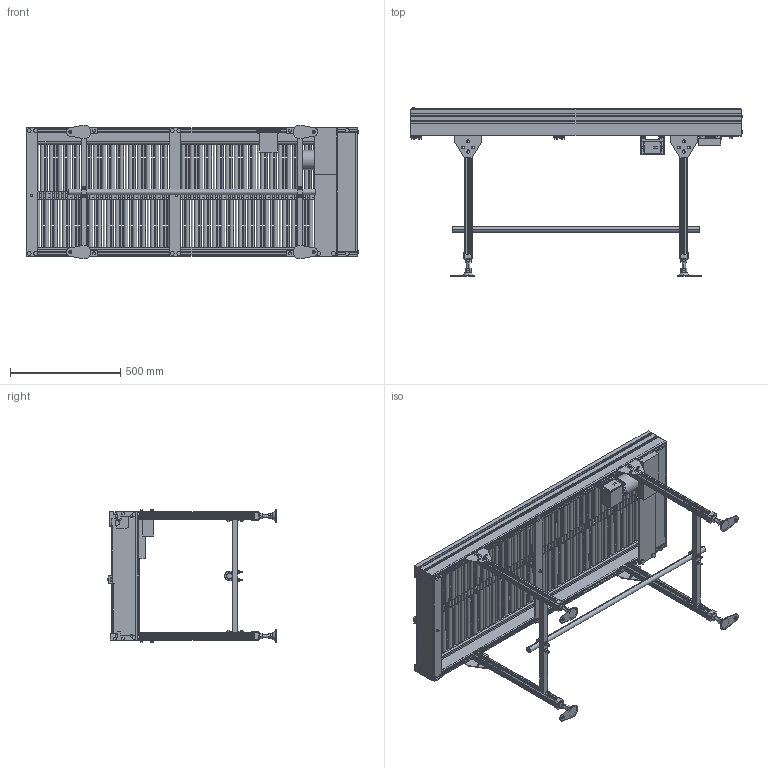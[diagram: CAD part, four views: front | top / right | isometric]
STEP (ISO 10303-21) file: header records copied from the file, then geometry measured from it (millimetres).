
FILE_DESCRIPTION( (''), '2;1');
FILE_NAME ('GM18-CR-303-300-150-K-180.stp','2025-02-17T14:10:48',(''),(''),'spGate 20.6.2 (****-****-****-****)','','');
FILE_SCHEMA (('AUTOMOTIVE_DESIGN'));
Length unit declared in the file: millimetre
Products named in the file (38): NewModel; GM18-CR-303-300-150-K-180; TEMP_X_T-prt0; TEMP_X_T-prt1; TEMP_X_T-prt2; TEMP_X_T-prt3; TEMP_X_T-prt4; TEMP_X_T-prt5; TEMP_X_T-prt6; TEMP_X_T-prt7; TEMP_X_T-prt8; TEMP_X_T-prt9; TEMP_X_T-prt10; TEMP_X_T-prt11; TEMP_X_T-prt12; TEMP_X_T-prt13; TEMP_X_T-prt14; TEMP_X_T-prt15; TEMP_X_T-prt16; TEMP_X_T-prt17; TEMP_X_T-prt18; TEMP_X_T-prt19; TEMP_X_T-prt20; TEMP_X_T-prt21; TEMP_X_T-prt22; TEMP_X_T-prt23; TEMP_X_T-prt24; TEMP_X_T-prt25; TEMP_X_T-prt26; TEMP_X_T-prt27; TEMP_X_T-prt28; TEMP_X_T-prt29; TEMP_X_T-prt30; TEMP_X_T-prt31; TEMP_X_T-prt32; TEMP_X_T-prt33; TEMP_X_T-prt34; TEMP_X_T-prt35
Assembly tree (37 placements, depth 3):
  NewModel
    GM18-CR-303-300-150-K-180
      TEMP_X_T-prt0
      TEMP_X_T-prt1
      TEMP_X_T-prt2
      TEMP_X_T-prt3
      TEMP_X_T-prt4
      TEMP_X_T-prt5
      TEMP_X_T-prt6
      TEMP_X_T-prt7
      TEMP_X_T-prt8
      TEMP_X_T-prt9
      TEMP_X_T-prt10
      TEMP_X_T-prt11
      TEMP_X_T-prt12
      TEMP_X_T-prt13
      TEMP_X_T-prt14
      TEMP_X_T-prt15
      TEMP_X_T-prt16
      TEMP_X_T-prt17
      TEMP_X_T-prt18
      TEMP_X_T-prt19
      TEMP_X_T-prt20
      TEMP_X_T-prt21
      TEMP_X_T-prt22
      TEMP_X_T-prt23
      TEMP_X_T-prt24
      TEMP_X_T-prt25
      TEMP_X_T-prt26
      TEMP_X_T-prt27
      TEMP_X_T-prt28
      TEMP_X_T-prt29
      TEMP_X_T-prt30
      TEMP_X_T-prt31
      TEMP_X_T-prt32
      TEMP_X_T-prt33
      TEMP_X_T-prt34
      TEMP_X_T-prt35
Bounding box: 1508.6 x 766.9 x 606.99 mm (x, y, z)
Volume: 24955693.4 mm3; surface area: 5501295.8 mm2
Topology: 36 solids, 36 shells, 2792 faces, 7219 edges, 4719 vertices
Faces by surface type: plane 1798, cylinder 951, bspline 43
Entity records: 144062 total; most frequent: CARTESIAN_POINT 16239, ORIENTED_EDGE 14438, DIRECTION 14332, COLOUR_RGB 10047, PRESENTATION_STYLE_ASSIGNMENT 10047, STYLED_ITEM 10047, EDGE_CURVE 7219, DRAUGHTING_PRE_DEFINED_CURVE_FONT 7219
